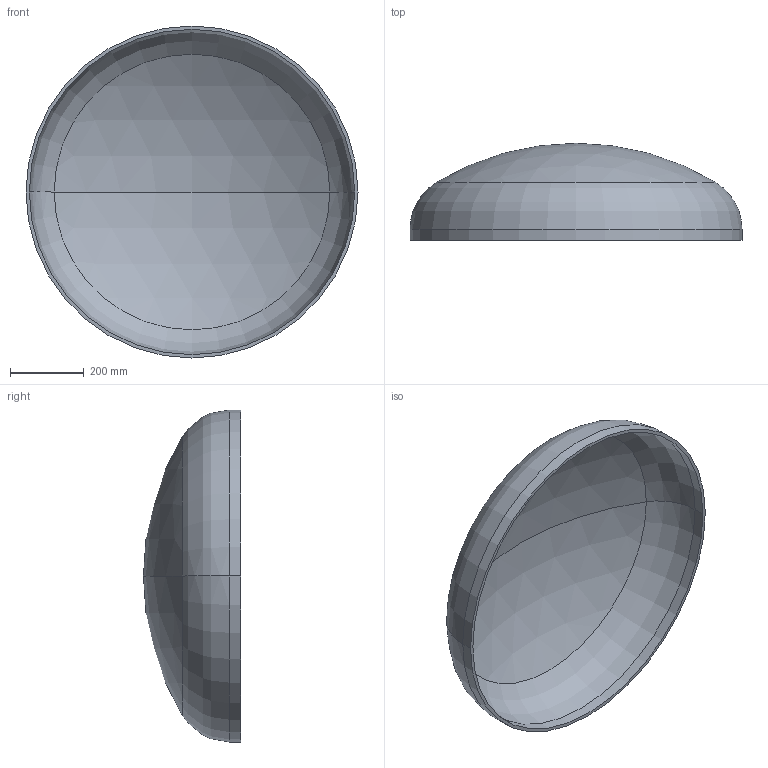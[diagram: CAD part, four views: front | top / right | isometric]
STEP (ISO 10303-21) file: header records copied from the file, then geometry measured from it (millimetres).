
FILE_DESCRIPTION (( 'STEP AP203' ), '1' );
FILE_NAME ('DIN 28013 Korbbogenform_-_Boden DIN 28013 - 900 x 30 - I - s=9.step', '2016-07-01T08:25:37', ( '' ), ( '' ), 'SwSTEP 2.0', 'SolidWorks 2013', '' );
FILE_SCHEMA (( 'CONFIG_CONTROL_DESIGN' ));
Length unit declared in the file: millimetre
Products named in the file (1): DIN 28013 Korbbogenform_-_Boden DIN 28013 - 900 x 30 - I - s=9
Bounding box: 900 x 263.22 x 900 mm (x, y, z)
Volume: 8596908.1 mm3; surface area: 1935785.4 mm2
Topology: 1 solids, 1 shells, 13 faces, 24 edges, 14 vertices
Faces by surface type: torus 4, cylinder 4, sphere 4, plane 1
Entity records: 407 total; most frequent: DIRECTION 72, CARTESIAN_POINT 52, ORIENTED_EDGE 48, AXIS2_PLACEMENT_3D 34, EDGE_CURVE 24, CIRCLE 20, EDGE_LOOP 14, VERTEX_POINT 14
